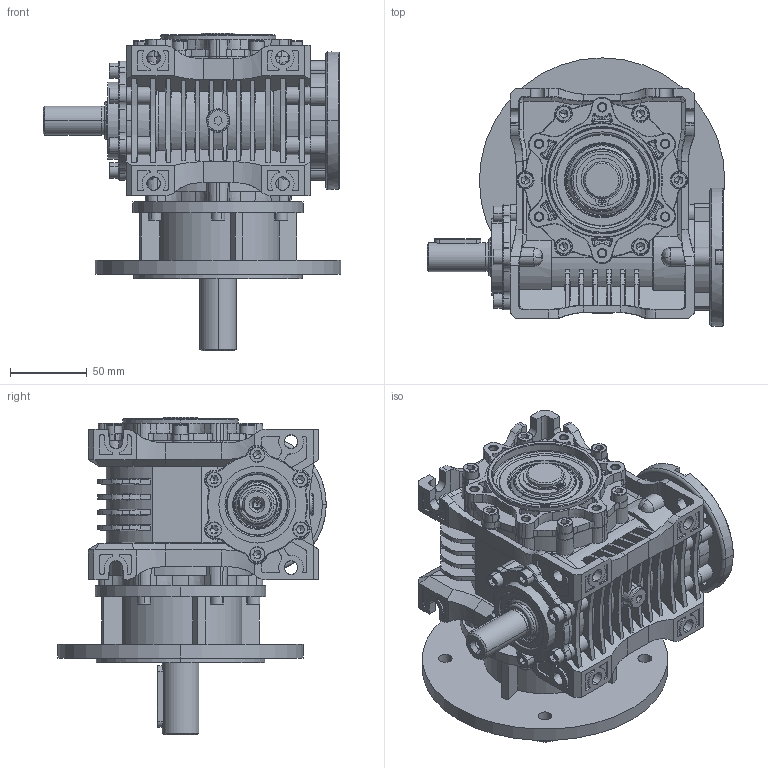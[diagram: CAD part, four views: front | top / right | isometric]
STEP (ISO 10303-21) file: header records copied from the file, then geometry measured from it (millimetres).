
FILE_DESCRIPTION (( 'STEP AP203' ), '1' );
FILE_NAME ('MR-50_90-11-WBS-K160_1-WJ_1-3D.STEP', '2024-03-04T10:19:12', ( '' ), ( '' ), 'SwSTEP 2.0', 'SolidWorks 2022', '' );
FILE_SCHEMA (( 'CONFIG_CONTROL_DESIGN' ));
Products named in the file (1): MR-50_90-11-WBS-K160_1-WJ_1-3D
Bounding box: 194 x 175 x 207 mm (x, y, z)
Volume: 1528155 mm3; surface area: 297515.9 mm2
Topology: 1 solids, 65 shells, 3447 faces, 8952 edges, 5639 vertices
Faces by surface type: plane 1290, cone 1014, cylinder 850, torus 196, bspline 97
Entity records: 124210 total; most frequent: CARTESIAN_POINT 40276, DIRECTION 17986, ORIENTED_EDGE 17628, EDGE_CURVE 8814, AXIS2_PLACEMENT_3D 6897, VERTEX_POINT 5639, VECTOR 4192, LINE 4192
